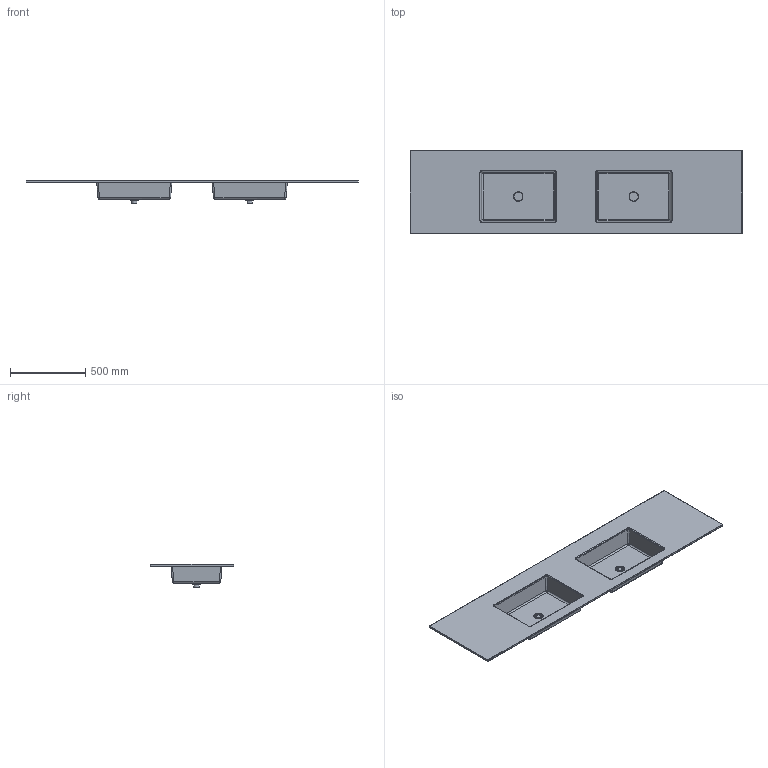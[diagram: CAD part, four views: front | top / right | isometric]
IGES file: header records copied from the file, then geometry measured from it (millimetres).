
Start section:  Autodesk Design for Windows version 2010 IGES version 5.3  Autodesk Design for Windows version 2010 IGES version 5.3
Global section: file name: Y:\X MICHELA\DESK 50\3D\MOMA DESIGN_PIANI LAVABO_DESK 50 MODULE DOUBLE.igs; native system: Rhinoceros ( Feb 23 2021 ); preprocessor: Trout Lake IGES 012 Feb 23 2021; date: 250324.111317; units: millimetre
Bounding box: 2200 x 550 x 154.12 mm (x, y, z)
Surface area: 2511361.6 mm2 (no closed solid volume)
Topology: 0 solids, 0 shells, 132 faces, 974 edges, 961 vertices
Faces by surface type: bspline 132
